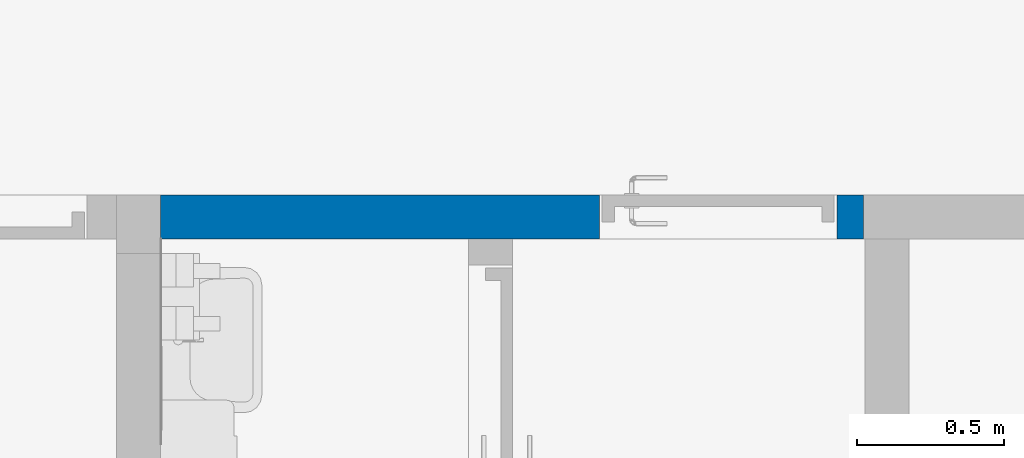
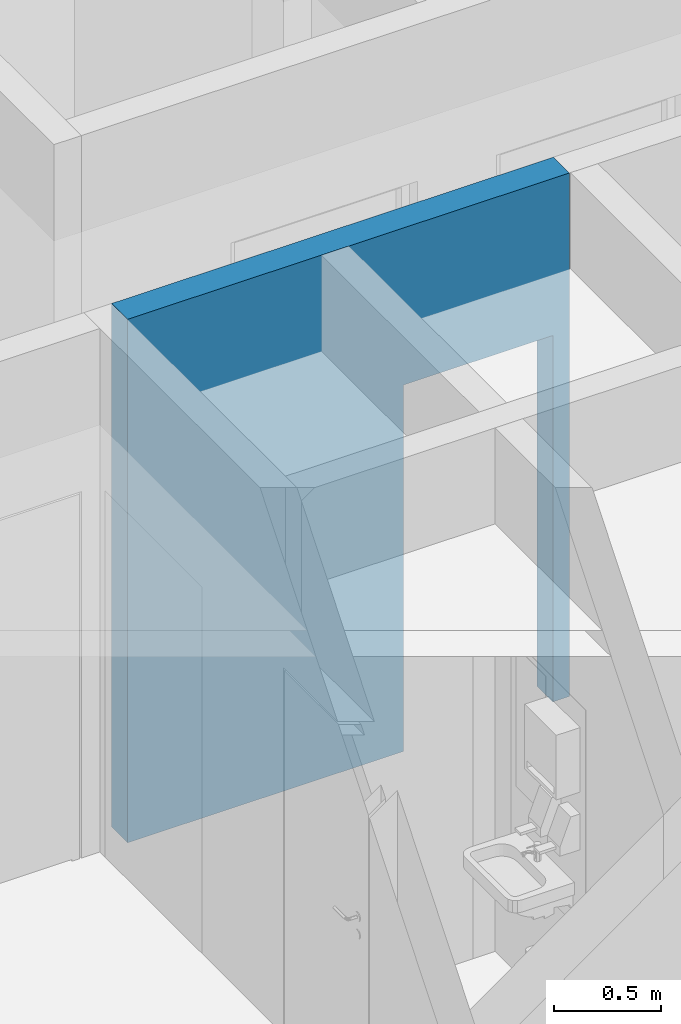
# One storey, part 28 of 58: 1 wall, 1 opening.
"""IFC2X3 building model written with IfcOpenShell, lengths in millimetres."""

from ifc_helpers import new_model, entity, si_unit, converted_unit, derived_unit, direction, frame, frame_2d, origin, place, context, subcontext, project, spatial, rectangle, extrude, material, layer, layer_set, layer_usage, type_object, element, save


model = new_model("IFC2X3")

# Units and contexts
model_context = context("Model", 3, precision=0.01, world=origin(), true_north=direction((0.7716245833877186, 0.6360782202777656)))
body_context = subcontext(model_context, "Body", "Model", "MODEL_VIEW")
ifc_project = project(units=[si_unit("LENGTHUNIT", "METRE", prefix="MILLI"), si_unit("AREAUNIT", "SQUARE_METRE"), converted_unit("PLANEANGLEUNIT", "DEGREE", entity("IfcPlaneAngleMeasure", 0.017453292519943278), si_unit("PLANEANGLEUNIT", "RADIAN"), dimensions=[0, 0, 0, 0, 0, 0, 0]), derived_unit("THERMALTRANSMITTANCEUNIT", [(si_unit("MASSUNIT", "GRAM", prefix="KILO"), 1), (si_unit("THERMODYNAMICTEMPERATUREUNIT", "KELVIN"), -1), (si_unit("TIMEUNIT", "SECOND"), -3)])], contexts=[model_context])

# Site, building, storey
site_placement = place(None, origin())
site = spatial("IfcSite", under=ifc_project, at=site_placement, Name="Default", CompositionType="ELEMENT")
building_placement = place(site_placement, origin())
building = spatial("IfcBuilding", under=site, at=building_placement, CompositionType="ELEMENT")
storey_placement = place(building_placement, frame((0.0, 0.0, 31140.0)))
storey = spatial("IfcBuildingStorey", under=building, at=storey_placement, Name="PLAN U1", CompositionType="ELEMENT", Elevation=31140.000000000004)

# Wall, opening
ifc_material = material(Name="Eksist. vegg")
ifc_layer = layer(ifc_material, 150.0)
ifc_layer_set = layer_set([ifc_layer], Name="Basic Wall:240 Eksist. Innervegg 150 mm")
ifc_layer_usage = layer_usage(ifc_layer_set, "AXIS2", "NEGATIVE", 75.0)
wall_type = type_object("IfcWallType", Name="Basic Wall:240 Eksist. Innervegg 150 mm", PredefinedType="STANDARD", material=ifc_layer_set)
wall_placement = place(storey_placement, frame((265837.924446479, 62679.50163955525, 0.0), z_axis=(0.0, 0.0, 1.0), x_axis=(-1.0, 0.0, 0.0)))
wall = element("IfcWallStandardCase", 1, at=wall_placement, inside=storey, type_object=wall_type, material=ifc_layer_usage, Name="Basic Wall:240 Eksist. Innervegg 150 mm", ObjectType="Basic Wall:240 Eksist. Innervegg 150 mm", context=body_context, shape_type="SweptSolid", body=[
    extrude(rectangle(XDim=2395.0000000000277, YDim=150.00000000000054, at=frame_2d((1197.5000000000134, 2.6574298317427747e-12), x_axis=(1.0, 0.0))), origin(), (0.0, 0.0, 1.0), 2999.9999999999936),
])
opening_placement = place(wall_placement, frame((900.0, 75.0, 0.0)))
element("IfcOpeningElement", 2, at=opening_placement, cuts=wall, Name="Enfløyet:244 Innvendig AAa 8x21M - Tett:1", ObjectType="Opening", context=body_context, shape_type="SweptSolid", body=[
    extrude(rectangle(XDim=2100.0, YDim=810.0, at=frame_2d((1049.9999999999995, 405.0), x_axis=(1.0, 0.0))), frame((0.0, 0.0, 0.0), z_axis=(0.0, -1.0, 0.0), x_axis=(0.0, 0.0, 1.0)), (0.0, 0.0, 1.0), 150.0),
])

save(model, "model.ifc")
